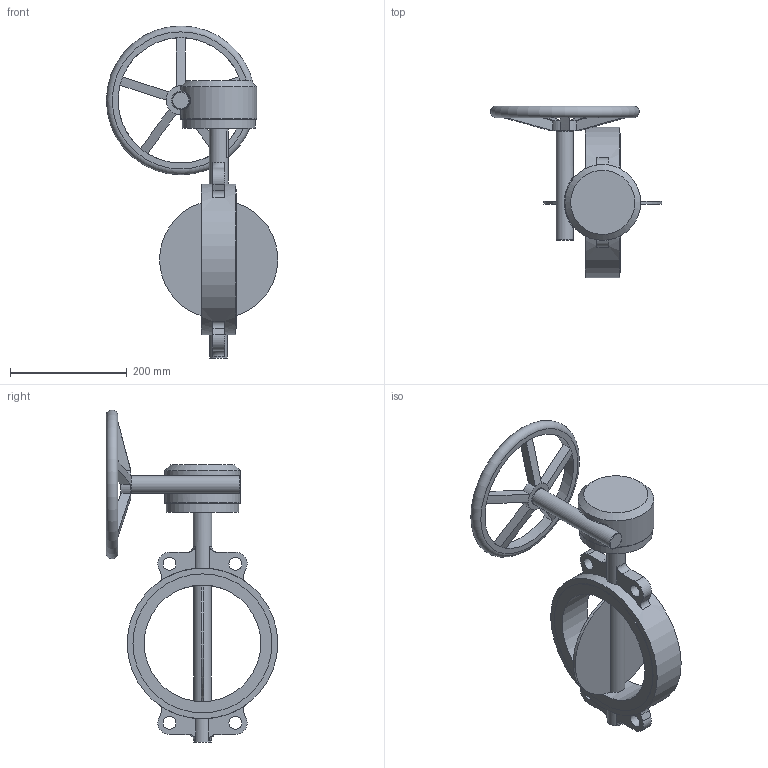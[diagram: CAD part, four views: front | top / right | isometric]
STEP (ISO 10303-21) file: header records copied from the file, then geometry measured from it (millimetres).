
FILE_DESCRIPTION(('STEP AP203'), '1');
FILE_NAME('青蜮铕 017W.Y_DN200_PN10_疱潴牝铕', '', ('UNSPECIFIED'), ('UNSPECIFIED'), 'ASCON STEP Converter 1.6', 'ASCON Math Kernel', '');
FILE_SCHEMA(('CONFIG_CONTROL_DESIGN'));
Length unit declared in the file: millimetre
Bounding box: 293.35 x 294.1 x 569 mm (x, y, z)
Volume: 3301265.8 mm3; surface area: 388305.9 mm2
Topology: 1 solids, 1 shells, 139 faces, 344 edges, 214 vertices
Faces by surface type: plane 64, cylinder 46, cone 19, torus 8, bspline 2
Full cylindrical faces by diameter (mm): 10.106 x4, 12 x4, 22 x4, 30 x2, 32 x1, 125 x1, 130 x1, 200 x1, 215 x1, 238.2 x2, 258.2 x1
Entity records: 7356 total; most frequent: CARTESIAN_POINT 3022, DIRECTION 678, ORIENTED_EDGE 606, EDGE_CURVE 303, AXIS2_PLACEMENT_3D 283, VERTEX_POINT 210, EDGE_LOOP 205, CIRCLE 145
